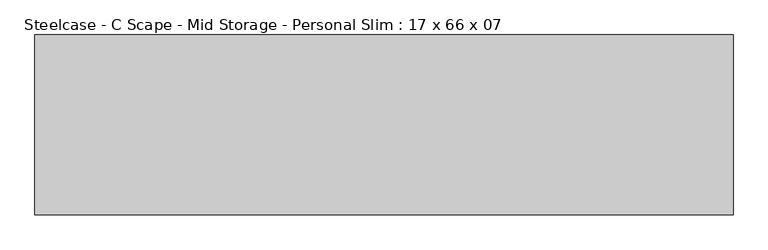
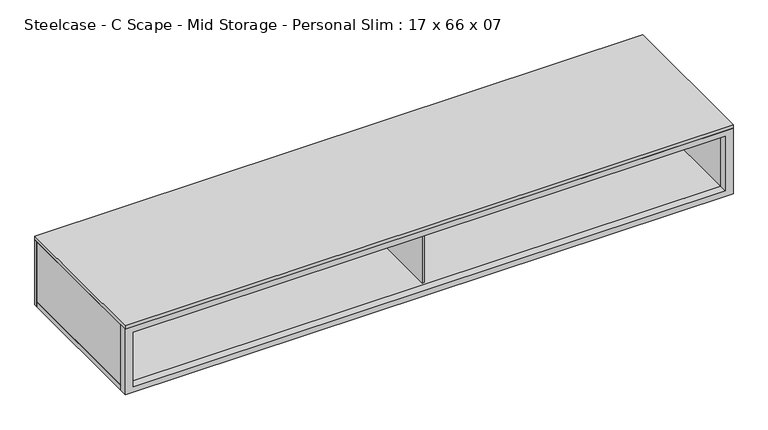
"""IFC4 building model written with IfcOpenShell, lengths in millimetres: furniture geometry, Steelcase - C Scape - Mid Storage - Personal Slim : 17 x 66 x 07."""

from ifc_helpers import new_model, si_unit, frame, origin, place, context, project, spatial, polyline, outline, extrude, source, transform, mapped, element, save


def steelcase_c_scape_mid_storage_personal_slim_17_x_66_x_07_22644bd8(model_context):
    return source(origin(), model_context, "Body", "SweptSolid", [
        extrude(outline(polyline([(1028.7, 1676.4), (1028.7, 0.0), (838.2, 0.0), (838.2, 1676.4), (1028.7, 1676.4)]), holes=[polyline([(853.4399855, 21.9711633), (1013.46, 21.9711633), (1013.46, 1654.302), (853.4399855, 1654.302), (853.4399855, 21.9711633)])]), frame((0.0, -215.9, 0.0), z_axis=(0.0, 1.0, 0.0), x_axis=(0.0, 0.0, 1.0)), (0.0, 0.0, 1.0), 21.4627892),
        extrude(outline(polyline([(1676.4, 206.3755809), (1676.4, -194.4372108), (0.0, -194.4372108), (0.0, 206.3755809), (1676.4, 206.3755809)])), frame((0.0, 0.0, 838.2), z_axis=(0.0, 0.0, 1.0), x_axis=(1.0, 0.0, 0.0)), (0.0, 0.0, 1.0), 15.2399855),
        extrude(outline(polyline([(1676.4, 215.9), (1676.4, -215.9), (0.0, -215.9), (0.0, 215.9), (1676.4, 215.9)])), frame((0.0, 0.0, 1028.7), z_axis=(0.0, 0.0, 1.0), x_axis=(1.0, 0.0, 0.0)), (0.0, 0.0, 1.0), 10.1599903),
        extrude(outline(polyline([(1676.4, 215.9), (1676.4, 206.3755809), (0.0, 206.3755809), (0.0, 215.9), (1676.4, 215.9)])), frame((0.0, 0.0, 838.2), z_axis=(0.0, 0.0, 1.0), x_axis=(1.0, 0.0, 0.0)), (0.0, 0.0, 1.0), 190.5),
        extrude(outline(polyline([(21.9711633, 206.3755809), (21.9711633, -194.4372108), (0.0, -194.4372108), (0.0, 206.3755809), (21.9711633, 206.3755809)])), frame((0.0, 0.0, 853.4399855), z_axis=(0.0, 0.0, 1.0), x_axis=(1.0, 0.0, 0.0)), (0.0, 0.0, 1.0), 175.2600145),
        extrude(outline(polyline([(1654.302, 206.3755809), (1676.4, 206.3755809), (1676.4, -194.4372108), (1654.302, -194.4372108), (1654.302, 206.3755809)])), frame((0.0, 0.0, 853.4399855), z_axis=(0.0, 0.0, 1.0), x_axis=(1.0, 0.0, 0.0)), (0.0, 0.0, 1.0), 175.2600145),
        extrude(outline(polyline([(835.025, -187.1471039), (835.025, 206.3755809), (841.375, 206.3755809), (841.375, -187.1471039), (835.025, -187.1471039)])), frame((0.0, 0.0, 853.4399855), z_axis=(0.0, 0.0, 1.0), x_axis=(1.0, 0.0, 0.0)), (0.0, 0.0, 1.0), 160.0200145),
    ])


if __name__ == "__main__":
    model = new_model("IFC4")
    model_context = context("Model", 3, world=origin())
    ifc_project = project(units=[si_unit("LENGTHUNIT", "METRE", prefix="MILLI")], contexts=[model_context])
    site = spatial("IfcSite", under=ifc_project)
    building = spatial("IfcBuilding", under=site)
    placement = place(None, origin())
    steelcase_c_scape_mid_storage_personal_slim_17_x_66_x_07_shape = steelcase_c_scape_mid_storage_personal_slim_17_x_66_x_07_22644bd8(model_context)
    element("IfcFurniture", 1, ObjectType="Steelcase - C Scape - Mid Storage - Personal Slim : 17 x 66 x 07", at=placement, inside=building, context=model_context, shape_type="MappedRepresentation", body=[
        mapped(steelcase_c_scape_mid_storage_personal_slim_17_x_66_x_07_shape, transform((0.0, 0.0, 0.0), x_axis=(1.0, 0.0, 0.0), y_axis=(0.0, 1.0, 0.0), z_axis=(0.0, 0.0, 1.0))),
    ])
    save(model, "model.ifc")
